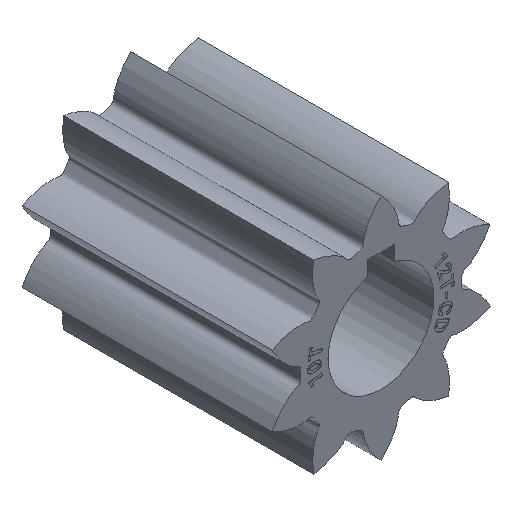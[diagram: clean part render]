
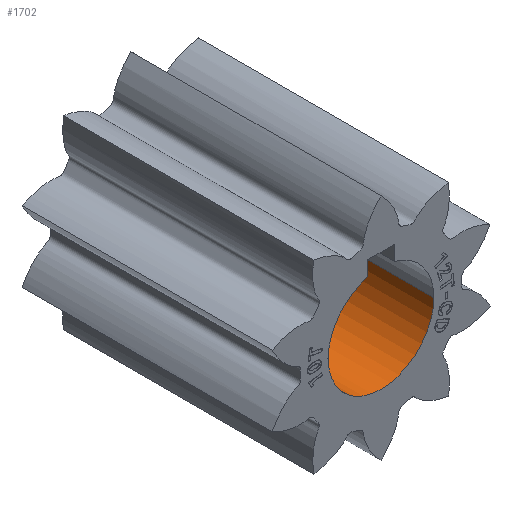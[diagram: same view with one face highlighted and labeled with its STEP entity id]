
A CAD part, isometric view. The second image highlights one B-rep face of the part: STEP entity #1702.
In plain terms, the highlighted cylindrical face has radius 4.025 mm (diameter 8.05 mm), a partial arc.
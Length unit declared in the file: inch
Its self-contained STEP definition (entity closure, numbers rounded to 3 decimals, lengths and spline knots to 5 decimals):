
#195 = CARTESIAN_POINT ( 'NONE',  ( -0.15846, 0.375, 0. ) ) ;
#720 = AXIS2_PLACEMENT_3D ( 'NONE', #5615, #7137, #5414 ) ;
#761 = FACE_OUTER_BOUND ( 'NONE', #4603, .T. ) ;
#1191 = CARTESIAN_POINT ( 'NONE',  ( 0., 0.375, 0. ) ) ;
#1595 = EDGE_CURVE ( 'NONE', #9940, #4563, #8238, .T. ) ;
#1702 = ADVANCED_FACE ( 'NONE', ( #761 ), #6350, .F. ) ;
#2189 = VECTOR ( 'NONE', #8804, 39.37008 ) ;
#2490 = VECTOR ( 'NONE', #5060, 39.37008 ) ;
#2849 = DIRECTION ( 'NONE',  ( 1., 0., 0. ) ) ;
#3188 = AXIS2_PLACEMENT_3D ( 'NONE', #6933, #10008, #2849 ) ;
#3197 = ORIENTED_EDGE ( 'NONE', *, *, #8792, .F. ) ;
#3227 = LINE ( 'NONE', #195, #2490 ) ;
#3646 = CARTESIAN_POINT ( 'NONE',  ( -0.15846, -0.375, 0. ) ) ;
#3737 = AXIS2_PLACEMENT_3D ( 'NONE', #1191, #9279, #8450 ) ;
#4305 = CARTESIAN_POINT ( 'NONE',  ( -0.15846, 0.375, 0. ) ) ;
#4563 = VERTEX_POINT ( 'NONE', #5063 ) ;
#4603 = EDGE_LOOP ( 'NONE', ( #6870, #4800, #3197, #9058 ) ) ;
#4800 = ORIENTED_EDGE ( 'NONE', *, *, #5357, .T. ) ;
#5060 = DIRECTION ( 'NONE',  ( 0., -1., 0. ) ) ;
#5063 = CARTESIAN_POINT ( 'NONE',  ( 0.15846, 0.375, 0. ) ) ;
#5357 = EDGE_CURVE ( 'NONE', #9940, #6545, #3227, .T. ) ;
#5414 = DIRECTION ( 'NONE',  ( 1., 0., 0. ) ) ;
#5615 = CARTESIAN_POINT ( 'NONE',  ( 0., 0.375, 0. ) ) ;
#6350 = CYLINDRICAL_SURFACE ( 'NONE', #720, 0.15846 ) ;
#6545 = VERTEX_POINT ( 'NONE', #3646 ) ;
#6870 = ORIENTED_EDGE ( 'NONE', *, *, #1595, .F. ) ;
#6933 = CARTESIAN_POINT ( 'NONE',  ( 0., -0.375, 0. ) ) ;
#7137 = DIRECTION ( 'NONE',  ( 0., -1., 0. ) ) ;
#7247 = LINE ( 'NONE', #8019, #2189 ) ;
#7256 = CARTESIAN_POINT ( 'NONE',  ( 0.15846, -0.375, 0. ) ) ;
#7605 = VERTEX_POINT ( 'NONE', #7256 ) ;
#7685 = CIRCLE ( 'NONE', #3188, 0.15846 ) ;
#8019 = CARTESIAN_POINT ( 'NONE',  ( 0.15846, 0.375, 0. ) ) ;
#8238 = CIRCLE ( 'NONE', #3737, 0.15846 ) ;
#8450 = DIRECTION ( 'NONE',  ( 1., 0., 0. ) ) ;
#8792 = EDGE_CURVE ( 'NONE', #7605, #6545, #7685, .T. ) ;
#8804 = DIRECTION ( 'NONE',  ( 0., -1., 0. ) ) ;
#9058 = ORIENTED_EDGE ( 'NONE', *, *, #9508, .F. ) ;
#9279 = DIRECTION ( 'NONE',  ( 0., -1., 0. ) ) ;
#9508 = EDGE_CURVE ( 'NONE', #4563, #7605, #7247, .T. ) ;
#9940 = VERTEX_POINT ( 'NONE', #4305 ) ;
#10008 = DIRECTION ( 'NONE',  ( 0., 1., 0. ) ) ;
